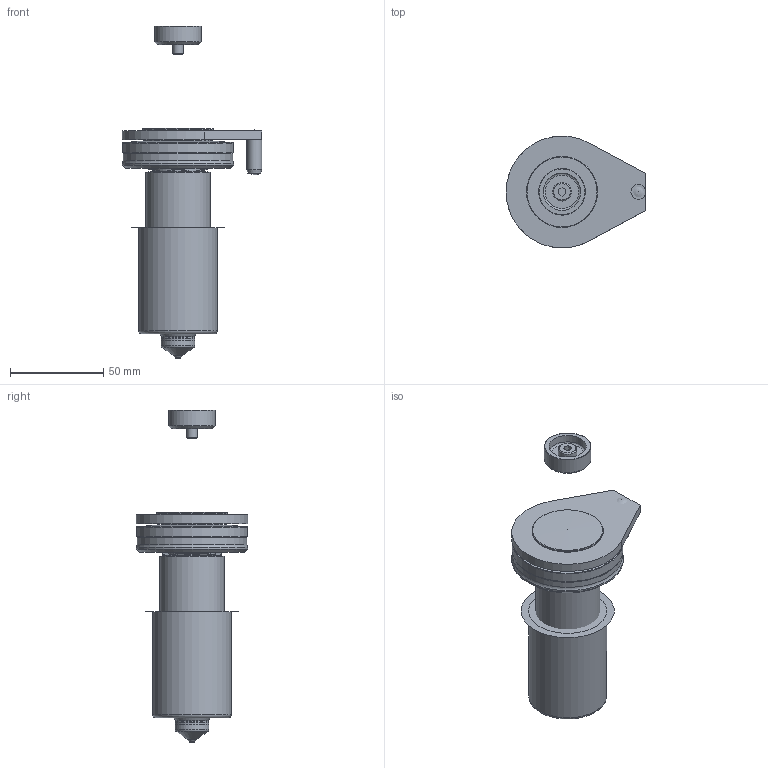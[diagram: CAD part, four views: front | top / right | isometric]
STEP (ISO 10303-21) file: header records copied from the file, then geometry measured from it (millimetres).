
FILE_DESCRIPTION(/* description */ (''),/* implementation_level */ '2;1');
FILE_NAME(/* name */ 'U1000 HT-D.stp',/* time_stamp */ '2021-12-23T10:51:59+08:00',/* author */ (''),/* organization */ (''),/* preprocessor_version */ 'ST-DEVELOPER v16',/* originating_system */ 'SIEMENS PLM Software NX 11.0',/* authorisation */ '');
FILE_SCHEMA (('AUTOMOTIVE_DESIGN { 1 0 10303 214 3 1 1 1 }'));
Length unit declared in the file: millimetre
Products named in the file (15): 3D_EXPORT_3D_ASSY_11312185_0_id6_x_t; 3D_EXPORT_3D_ASSY_11312185_0_id11_x_t; 3D_EXPORT_3D_ASSY_11312185_0_id16_x_t; 3D_EXPORT_3D_ASSY_11312185_0_id21_x_t; 3D_EXPORT_3D_ASSY_11312185_0_id26_x_t; 3D_EXPORT_3D_ASSY_11312185_0_id31_x_t; 3D_EXPORT_3D_ASSY_11312185_0_id36_x_t; 3D_EXPORT_3D_ASSY_11312185_0_id41_x_t; 3D_EXPORT_3D_ASSY_11312185_0_id46_x_t; 3D_EXPORT_3D_ASSY_11312185_0_id51_x_t; 3D_EXPORT_3D_ASSY_11312185_0_id56_x_t; 3D_EXPORT_3D_ASSY_11312185_0_id61_x_t; 3D_EXPORT_3D_ASSY_11312185_0_id66_x_t; 3D_EXPORT_3D_ASSY_11312185_0_id73_x_t; 3D_EXPORT_3D_ASSY_11312185_0_x_t
Assembly tree (16 placements, depth 2):
  3D_EXPORT_3D_ASSY_11312185_0_x_t
    3D_EXPORT_3D_ASSY_11312185_0_id73_x_t  x2
    3D_EXPORT_3D_ASSY_11312185_0_id66_x_t  x2
    3D_EXPORT_3D_ASSY_11312185_0_id61_x_t
    3D_EXPORT_3D_ASSY_11312185_0_id56_x_t
    3D_EXPORT_3D_ASSY_11312185_0_id51_x_t
    3D_EXPORT_3D_ASSY_11312185_0_id46_x_t
    3D_EXPORT_3D_ASSY_11312185_0_id41_x_t
    3D_EXPORT_3D_ASSY_11312185_0_id36_x_t
    3D_EXPORT_3D_ASSY_11312185_0_id31_x_t
    3D_EXPORT_3D_ASSY_11312185_0_id26_x_t
    3D_EXPORT_3D_ASSY_11312185_0_id21_x_t
    3D_EXPORT_3D_ASSY_11312185_0_id16_x_t
    3D_EXPORT_3D_ASSY_11312185_0_id11_x_t
    3D_EXPORT_3D_ASSY_11312185_0_id6_x_t
Bounding box: 75 x 59.99 x 178.16 mm (x, y, z)
Volume: 286877.3 mm3; surface area: 70857.5 mm2
Topology: 16 solids, 16 shells, 369 faces, 995 edges, 645 vertices
Faces by surface type: cylinder 224, plane 88, torus 30, cone 25, sphere 2
Full cylindrical faces by diameter (mm): 1.98 x1, 2.045 x1, 3 x1, 5.795 x1, 6 x1, 8 x1, 10 x1, 13.99 x1, 17.6 x1, 17.7 x1, 17.997 x1, 18.01 x1, 18.075 x1, 18.1 x1, 19.925 x1, 20 x1, 24.33 x1, 25 x1, 25.4 x2, 25.41 x3, 25.43 x1, 27.27 x1, 31.75 x2, 32.55 x1, 34.44 x1, 38.1 x1, 42 x1, 50 x1, 58.795 x1, 59.5 x1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
Entity records: 9698 total; most frequent: CARTESIAN_POINT 2110, ORIENTED_EDGE 1044, DIRECTION 1028, EDGE_CURVE 522, AXIS2_PLACEMENT_3D 429, EDGE_LOOP 396, VERTEX_POINT 382, PRESENTATION_STYLE_ASSIGNMENT 267
